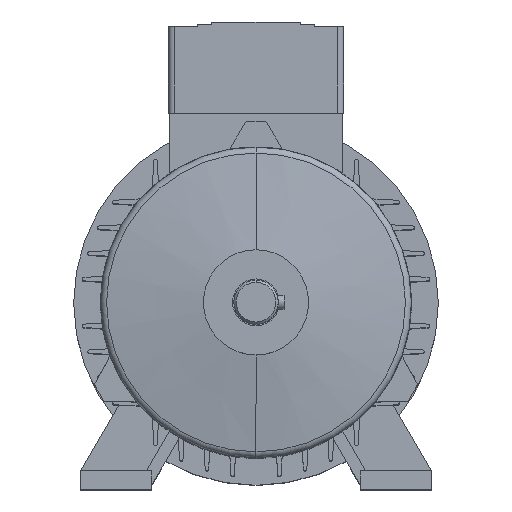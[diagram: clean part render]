
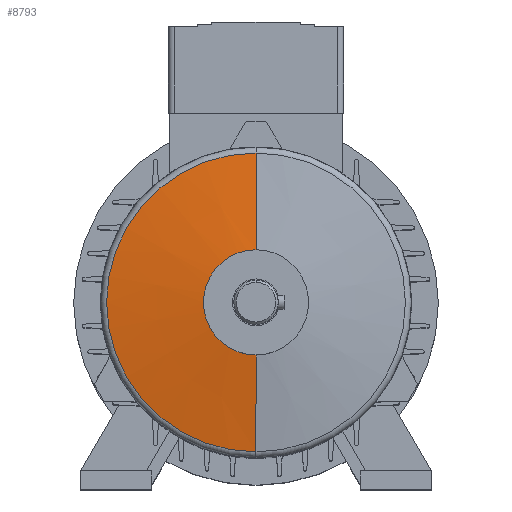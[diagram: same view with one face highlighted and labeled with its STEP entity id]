
A CAD part, top view. The second image highlights one B-rep face of the part: STEP entity #8793.
In plain terms, the highlighted conical face has half-angle 82 degrees and reference radius 43.209 mm.
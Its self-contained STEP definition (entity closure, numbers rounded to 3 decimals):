
#2887=CARTESIAN_POINT('',(0.,0.,9.679));
#2888=DIRECTION('',(0.,0.,1.));
#2889=DIRECTION('',(0.,1.,0.));
#2890=AXIS2_PLACEMENT_3D('',#2887,#2888,#2889);
#2902=DIRECTION('',(0.,-0.99,0.139));
#2903=VECTOR('',#2902,41.825);
#2904=CARTESIAN_POINT('',(0.,63.918,
9.679));
#2905=LINE('',#2904,#2903);
#2906=DIRECTION('',(0.,0.99,0.139));
#2907=VECTOR('',#2906,41.825);
#2908=CARTESIAN_POINT('',(0.,-63.918,
9.679));
#2909=LINE('',#2908,#2907);
#2938=CARTESIAN_POINT('',(0.,0.,15.5));
#2939=DIRECTION('',(0.,0.,1.));
#2940=DIRECTION('',(0.,1.,0.));
#2941=AXIS2_PLACEMENT_3D('',#2938,#2939,#2940);
#3733=CARTESIAN_POINT('',(0.,22.5,15.5));
#3735=VERTEX_POINT('',#3733);
#3741=CARTESIAN_POINT('',(0.,-22.5,15.5));
#3743=VERTEX_POINT('',#3741);
#3800=CARTESIAN_POINT('',(0.,63.918,9.679));
#3801=CARTESIAN_POINT('',(0.,-63.918,
9.679));
#3802=VERTEX_POINT('',#3800);
#3803=VERTEX_POINT('',#3801);
#8779=CARTESIAN_POINT('',(0.,0.,12.59));
#8780=DIRECTION('',(0.,0.,-1.));
#8781=DIRECTION('',(0.,-1.,0.));
#8782=AXIS2_PLACEMENT_3D('',#8779,#8780,#8781);
#8783=CONICAL_SURFACE('',#8782,43.209,82.);
#8784=ORIENTED_EDGE('',*,*,#8769,.F.);
#8786=ORIENTED_EDGE('',*,*,#8785,.T.);
#8788=ORIENTED_EDGE('',*,*,#8787,.T.);
#8790=ORIENTED_EDGE('',*,*,#8789,.F.);
#8791=EDGE_LOOP('',(#8784,#8786,#8788,#8790));
#8792=FACE_OUTER_BOUND('',#8791,.F.);
#8793=ADVANCED_FACE('',(#8792),#8783,.T.);
#2891=CIRCLE('',#2890,63.918);
#2942=CIRCLE('',#2941,22.5);
#8769=EDGE_CURVE('',#3802,#3803,#2891,.T.);
#8785=EDGE_CURVE('',#3802,#3735,#2905,.T.);
#8787=EDGE_CURVE('',#3735,#3743,#2942,.T.);
#8789=EDGE_CURVE('',#3803,#3743,#2909,.T.);
